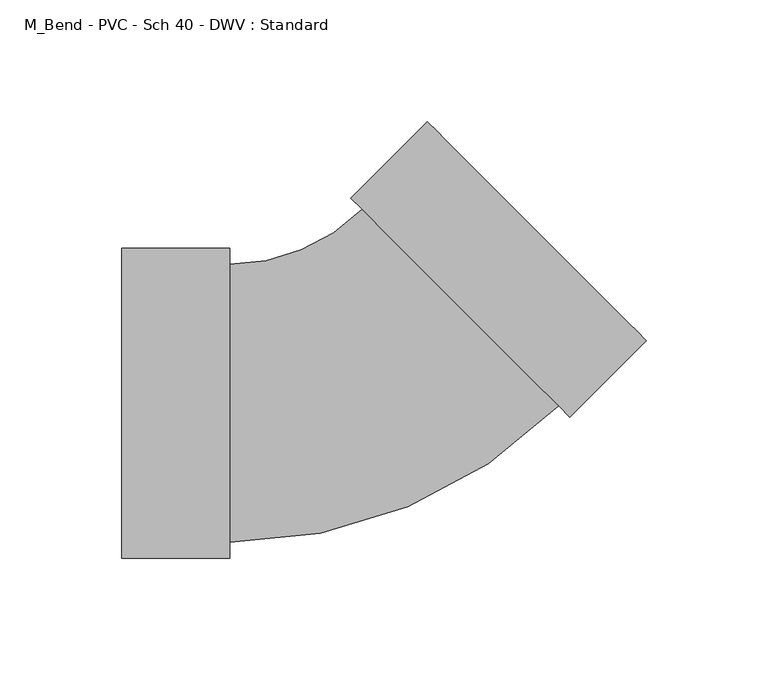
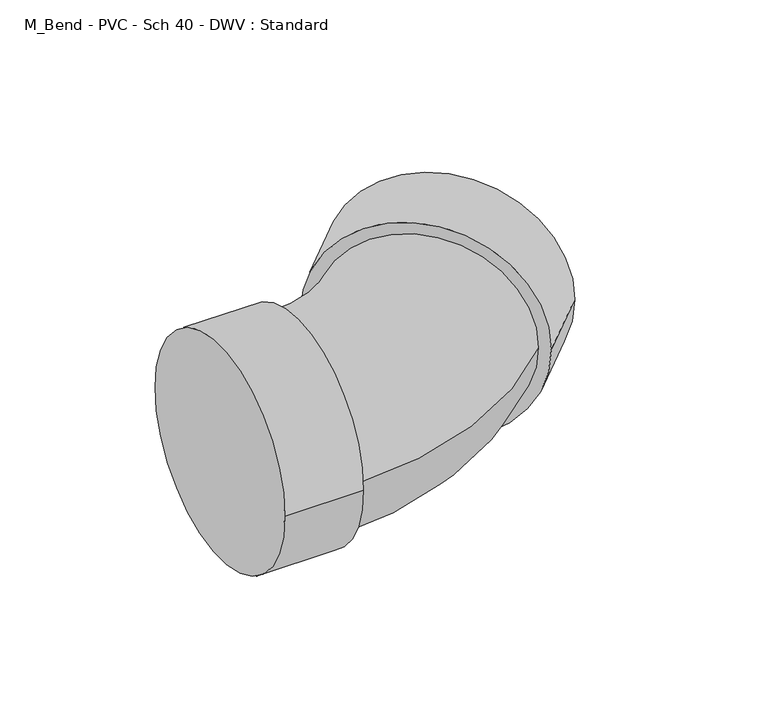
"""IFC4 building model written with IfcOpenShell, lengths in millimetres: pipe fitting geometry, M_Bend - PVC - Sch 40 - DWV : Standard."""

from ifc_helpers import new_model, si_unit, point, frame, origin, place, context, project, spatial, circle_curve, ellipse_curve, trimmed, source, transform, mapped, element, save
from ifc_brep_helpers import plane_surface, cylinder_surface, revolved_surface, advanced_brep


def m_bend_pvc_sch_40_dwv_standard_450cce6e(model_context):
    return source(origin(), model_context, "Body", "AdvancedBrep", [
        advanced_brep(
        [(-100.0252, -63.754, 0.0), (-100.0252, 63.754, 0.0), (-55.5752, -63.754, 0.0), (-55.5752, 63.754, 0.0), (-55.5752, -57.15, 0.0), (-55.5752, 57.15, 0.0), (-1.1135518, 79.7087533, 0.0), (79.7087533, -1.1135518, 0.0), (84.3784865, -5.7832849, 0.0), (-5.7832849, 84.3784865, 0.0), (115.8093829, 25.6476115, 0.0), (25.6476115, 115.8093829, 0.0)],
        [
            (0, 1, circle_curve(frame((-100.0252, 0.0, 0.0), z_axis=(-1.0, 0.0, 0.0), x_axis=(0.0, 1.0, 0.0)), 63.754)),
            (1, 0, circle_curve(frame((-100.0252, 0.0, 0.0), z_axis=(-1.0, 0.0, 0.0), x_axis=(0.0, 1.0, 0.0)), 63.754)),
            (2, 3, circle_curve(frame((-55.5752, 0.0, 0.0), z_axis=(1.0, 0.0, 0.0), x_axis=(0.0, 1.0, 0.0)), 63.754)),
            (3, 2, circle_curve(frame((-55.5752, 0.0, 0.0), z_axis=(1.0, 0.0, 0.0), x_axis=(0.0, 1.0, 0.0)), 63.754)),
            (4, 5, circle_curve(frame((-55.5752, 0.0, 0.0), z_axis=(-1.0, 0.0, 0.0), x_axis=(0.0, 1.0, 0.0)), 57.15)),
            (5, 4, circle_curve(frame((-55.5752, 0.0, 0.0), z_axis=(-1.0, 0.0, 0.0), x_axis=(0.0, 1.0, 0.0)), 57.15)),
            (0, 2),
            (3, 1),
            (6, 5, circle_curve(frame((-55.5752, 134.1704016, 0.0), z_axis=(0.0, 0.0, -1.0), x_axis=(0.0, -1.0, 0.0)), 77.0204016)),
            (4, 7, circle_curve(frame((-55.5752, 134.1704016, 0.0), z_axis=(0.0, 0.0, 1.0), x_axis=(0.0, -1.0, 0.0)), 191.3204016)),
            (7, 6, circle_curve(frame((39.2976008, 39.2976008, 0.0), z_axis=(-0.7071067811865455, -0.7071067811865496, 0.0), x_axis=(-0.7071067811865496, 0.7071067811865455, 0.0)), 57.15)),
            (6, 7, circle_curve(frame((39.2976008, 39.2976008, 0.0), z_axis=(-0.7071067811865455, -0.7071067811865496, 0.0), x_axis=(-0.7071067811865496, 0.7071067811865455, 0.0)), 57.15)),
            (8, 9, circle_curve(frame((39.2976008, 39.2976008, 0.0), z_axis=(-0.7071067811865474, -0.7071067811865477, 0.0), x_axis=(-0.7071067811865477, 0.7071067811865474, 0.0)), 63.754)),
            (9, 8, circle_curve(frame((39.2976008, 39.2976008, 0.0), z_axis=(-0.7071067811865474, -0.7071067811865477, 0.0), x_axis=(-0.7071067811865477, 0.7071067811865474, 0.0)), 63.754)),
            (10, 11, circle_curve(frame((70.7284972, 70.7284972, 0.0), z_axis=(0.7071067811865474, 0.7071067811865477, 0.0), x_axis=(-0.7071067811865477, 0.7071067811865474, 0.0)), 63.754)),
            (11, 10, circle_curve(frame((70.7284972, 70.7284972, 0.0), z_axis=(0.7071067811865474, 0.7071067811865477, 0.0), x_axis=(-0.7071067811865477, 0.7071067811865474, 0.0)), 63.754)),
            (8, 10),
            (11, 9),
        ],
        [
            plane_surface(frame((-100.0252, 0.0, 0.0), z_axis=(-1.0, 0.0, 0.0), x_axis=(0.0, 0.0, 1.0))),
            plane_surface(frame((-55.5752, 0.0, 0.0), z_axis=(1.0, 0.0, 0.0), x_axis=(0.0, 0.0, 1.0))),
            cylinder_surface(frame((-100.0252, 0.0, 0.0), z_axis=(-1.0, 0.0, 0.0), x_axis=(0.0, 1.0, 0.0)), 63.754),
            revolved_surface(trimmed(ellipse_curve(frame((-55.5752, 0.0, 0.0), z_axis=(-1.0, 0.0, 0.0), x_axis=(0.0, 1.0, 0.0)), 57.15, 57.15), [point((-55.5752, -57.15, 0.0))], [point((-55.5752, 57.15, 0.0))], True, "CARTESIAN"), (-55.5752, 134.1704016, 0.0), (0.0, 0.0, 1.0)),
            revolved_surface(trimmed(ellipse_curve(frame((-55.5752, 0.0, 0.0), z_axis=(-1.0, 0.0, 0.0), x_axis=(0.0, 1.0, 0.0)), 57.15, 57.15), [point((-55.5752, 57.15, 0.0))], [point((-55.5752, -57.15, 0.0))], True, "CARTESIAN"), (-55.5752, 134.1704016, 0.0), (0.0, 0.0, 1.0)),
            plane_surface(frame((39.2976008, 39.2976008, 0.0), z_axis=(-0.7071067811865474, -0.7071067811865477, 0.0), x_axis=(0.0, 0.0, 1.0))),
            plane_surface(frame((70.7284972, 70.7284972, 0.0), z_axis=(0.7071067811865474, 0.7071067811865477, 0.0), x_axis=(0.0, 0.0, 1.0))),
            cylinder_surface(frame((39.2976008, 39.2976008, 0.0), z_axis=(-0.7071067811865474, -0.7071067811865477, 0.0), x_axis=(-0.7071067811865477, 0.7071067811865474, 0.0)), 63.754),
        ],
        [
            (0, [[1, 2]]),
            (1, [[3, 4], [5, 6]]),
            (2, [[-1, 7, -4, 8]]),
            (2, [[-2, -8, -3, -7]]),
            (3, [[9, -5, 10, 11]]),
            (4, [[-9, 12, -10, -6]]),
            (5, [[13, 14], [-11, -12]]),
            (6, [[15, 16]]),
            (7, [[-13, 17, -16, 18]]),
            (7, [[-14, -18, -15, -17]]),
        ],
    ),
    ])


if __name__ == "__main__":
    model = new_model("IFC4")
    model_context = context("Model", 3, world=origin())
    ifc_project = project(units=[si_unit("LENGTHUNIT", "METRE", prefix="MILLI")], contexts=[model_context])
    site = spatial("IfcSite", under=ifc_project)
    building = spatial("IfcBuilding", under=site)
    placement = place(None, origin())
    m_bend_pvc_sch_40_dwv_standard_shape = m_bend_pvc_sch_40_dwv_standard_450cce6e(model_context)
    element("IfcPipeFitting", 1, ObjectType="M_Bend - PVC - Sch 40 - DWV : Standard", at=placement, inside=building, context=model_context, shape_type="MappedRepresentation", body=[
        mapped(m_bend_pvc_sch_40_dwv_standard_shape, transform((0.0, 0.0, 0.0), x_axis=(1.0, 0.0, 0.0), y_axis=(0.0, 1.0, 0.0), z_axis=(0.0, 0.0, 1.0))),
    ])
    save(model, "model.ifc")
